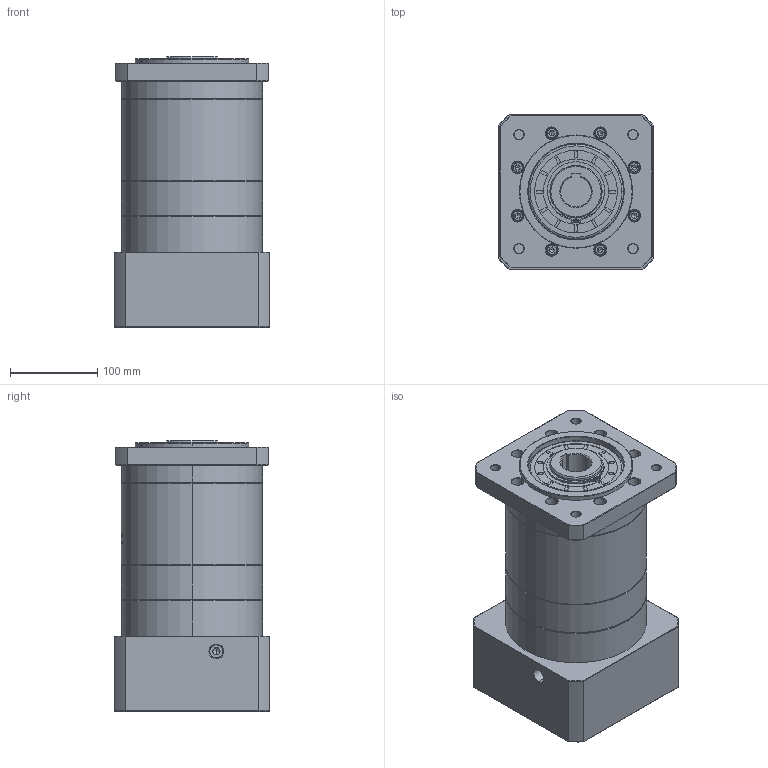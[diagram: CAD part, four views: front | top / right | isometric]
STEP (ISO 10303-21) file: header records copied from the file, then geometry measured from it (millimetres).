
FILE_DESCRIPTION (( 'STEP AP214' ), '1' );
FILE_NAME ('ZF160-K35-L3-42-114.3-200-M12.step', '2023-03-21T04:34:06', ( '' ), ( '' ), 'SwSTEP 2.0', 'SolidWorks 2016', '' );
FILE_SCHEMA (( 'AUTOMOTIVE_DESIGN' ));
Length unit declared in the file: millimetre
Products named in the file (1): ZF160-K35-L3-42-114.3-200-M12
Bounding box: 178 x 178 x 310.2 mm (x, y, z)
Volume: 6575604.2 mm3; surface area: 395275.2 mm2
Topology: 5 solids, 5 shells, 1556 faces, 4033 edges, 2582 vertices
Faces by surface type: plane 635, cylinder 371, cone 319, bspline 211, torus 20
Entity records: 86321 total; most frequent: CARTESIAN_POINT 33110, ORIENTED_EDGE 8010, DIRECTION 6862, EDGE_CURVE 4005, VERTEX_POINT 2582, AXIS2_PLACEMENT_3D 2374, VECTOR 2114, LINE 2114
